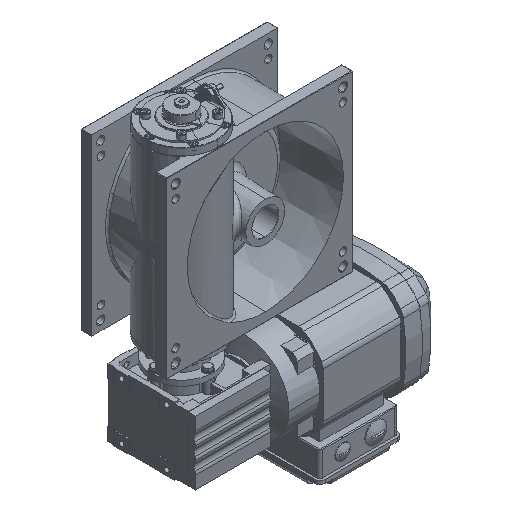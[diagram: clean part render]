
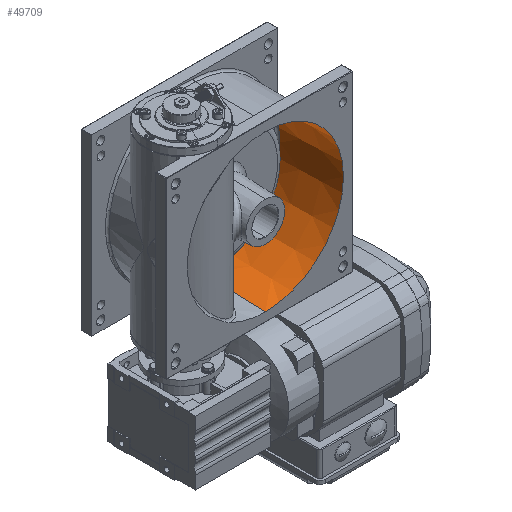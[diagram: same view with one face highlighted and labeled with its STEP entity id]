
A CAD part, isometric view. The second image highlights one B-rep face of the part: STEP entity #49709.
In plain terms, the highlighted conical face has half-angle 2 degrees and reference radius 104.105 mm.
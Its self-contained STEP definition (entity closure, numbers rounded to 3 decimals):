
#9034 = VERTEX_POINT ( 'NONE', #13301 ) ;
#11208 = CARTESIAN_POINT ( 'NONE',  ( 0., 84.705, 101.147 ) ) ;
#11917 = CARTESIAN_POINT ( 'NONE',  ( 0., 0., -104.105 ) ) ;
#12217 = EDGE_CURVE ( 'NONE', #28390, #9034, #34705, .T. ) ;
#12938 = LINE ( 'NONE', #11917, #44742 ) ;
#13301 = CARTESIAN_POINT ( 'NONE',  ( 0., 84.705, -101.147 ) ) ;
#14788 = CARTESIAN_POINT ( 'NONE',  ( 0., 84.705, 0. ) ) ;
#15810 = CIRCLE ( 'NONE', #49944, 104. ) ;
#16690 = DIRECTION ( 'NONE',  ( 0., 1., 0. ) ) ;
#16943 = CONICAL_SURFACE ( 'NONE', #56690, 104.105, 0.035 ) ;
#17077 = CARTESIAN_POINT ( 'NONE',  ( 0., 0., 0. ) ) ;
#23115 = LINE ( 'NONE', #66532, #59348 ) ;
#24739 = EDGE_CURVE ( 'NONE', #28390, #63946, #23115, .T. ) ;
#27476 = ORIENTED_EDGE ( 'NONE', *, *, #69070, .F. ) ;
#28390 = VERTEX_POINT ( 'NONE', #11208 ) ;
#28497 = EDGE_CURVE ( 'NONE', #9034, #37003, #12938, .T. ) ;
#30926 = CARTESIAN_POINT ( 'NONE',  ( 0., 3., 104. ) ) ;
#31429 = CARTESIAN_POINT ( 'NONE',  ( 0., 3., -104. ) ) ;
#32587 = EDGE_LOOP ( 'NONE', ( #45454, #59941, #49390, #27476 ) ) ;
#33373 = CARTESIAN_POINT ( 'NONE',  ( 0., 3., 0. ) ) ;
#34705 = CIRCLE ( 'NONE', #43861, 101.147 ) ;
#35167 = DIRECTION ( 'NONE',  ( 0., -1., 0. ) ) ;
#37003 = VERTEX_POINT ( 'NONE', #31429 ) ;
#37193 = DIRECTION ( 'NONE',  ( 0., 1., 0. ) ) ;
#38074 = FACE_OUTER_BOUND ( 'NONE', #32587, .T. ) ;
#39434 = DIRECTION ( 'NONE',  ( 0., 0., -1. ) ) ;
#43861 = AXIS2_PLACEMENT_3D ( 'NONE', #14788, #37193, #69916 ) ;
#44742 = VECTOR ( 'NONE', #66678, 1000. ) ;
#45454 = ORIENTED_EDGE ( 'NONE', *, *, #24739, .F. ) ;
#49390 = ORIENTED_EDGE ( 'NONE', *, *, #28497, .T. ) ;
#49709 = ADVANCED_FACE ( 'NONE', ( #38074 ), #16943, .F. ) ;
#49944 = AXIS2_PLACEMENT_3D ( 'NONE', #33373, #16690, #39434 ) ;
#56690 = AXIS2_PLACEMENT_3D ( 'NONE', #17077, #35167, #62189 ) ;
#57245 = DIRECTION ( 'NONE',  ( 0., -0.999, 0.035 ) ) ;
#59348 = VECTOR ( 'NONE', #57245, 1000. ) ;
#59941 = ORIENTED_EDGE ( 'NONE', *, *, #12217, .T. ) ;
#62189 = DIRECTION ( 'NONE',  ( 0., 0., -1. ) ) ;
#63946 = VERTEX_POINT ( 'NONE', #30926 ) ;
#66532 = CARTESIAN_POINT ( 'NONE',  ( 0., 0., 104.105 ) ) ;
#66678 = DIRECTION ( 'NONE',  ( 0., -0.999, -0.035 ) ) ;
#69070 = EDGE_CURVE ( 'NONE', #63946, #37003, #15810, .T. ) ;
#69916 = DIRECTION ( 'NONE',  ( 0., 0., 1. ) ) ;
